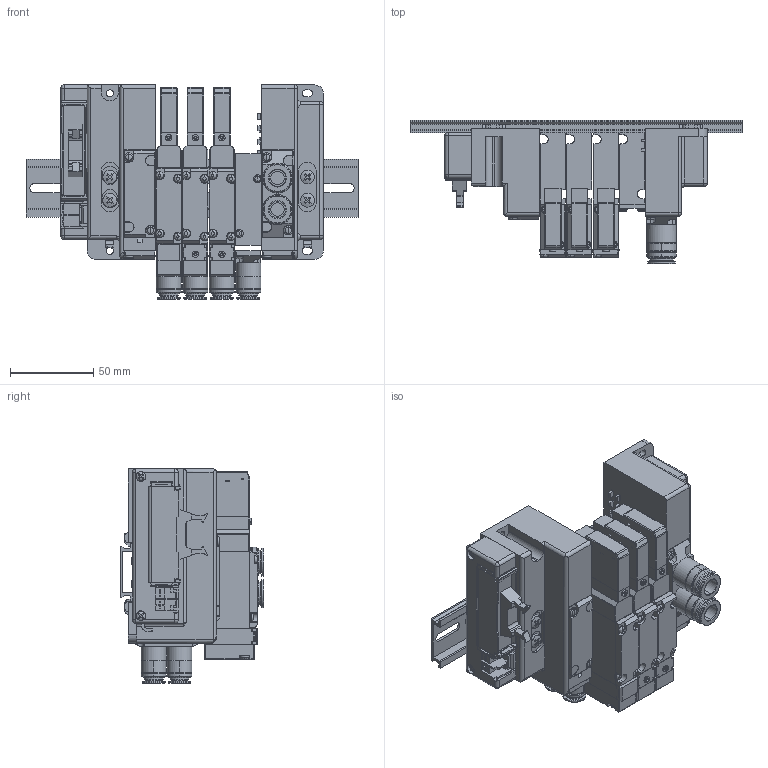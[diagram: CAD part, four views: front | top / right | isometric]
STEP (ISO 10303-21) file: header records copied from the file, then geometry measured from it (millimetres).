
FILE_DESCRIPTION( (''), '2;1');
FILE_NAME ('CVICAD02.4348.F15M4XPJ-JR-F10x-DR_21570.stp','2021-07-12T19:13:25',(''),(''),'spGate 12.6.6','','');
FILE_SCHEMA (('AUTOMOTIVE_DESIGN'));
Length unit declared in the file: millimetre
Products named in the file (22): Assembly; CVICAD02-prt1; CVICAD02-prt2; CVICAD02-prt3; CVICAD02-asm1; CVICAD02-prt6; CVICAD02-prt7; CVICAD02-prt8; CVICAD02-asm2; CVICAD02-asm3; CVICAD02-prt17; CVICAD02-prt4; CVICAD02-prt5; CVICAD02-prt9; CVICAD02-prt10; CVICAD02-prt11; CVICAD02-prt12; CVICAD02-prt13; CVICAD02-prt14; CVICAD02-prt15; CVICAD02-prt16
Assembly tree (36 placements, depth 3):
  Assembly
    (unnamed)  x4
    CVICAD02-prt1  x3
    CVICAD02-prt2
    CVICAD02-prt3  x4
    CVICAD02-asm1
      CVICAD02-prt4
      CVICAD02-prt5
    CVICAD02-prt6
    CVICAD02-prt7
    CVICAD02-prt8
    CVICAD02-asm2
      CVICAD02-prt9
      CVICAD02-prt10
      CVICAD02-prt11
      CVICAD02-prt12
      CVICAD02-prt13
      CVICAD02-prt14
      CVICAD02-prt15
    CVICAD02-asm3  x2
      CVICAD02-prt9
      CVICAD02-prt10
      CVICAD02-prt11
      CVICAD02-prt12
      CVICAD02-prt14
      CVICAD02-prt16
      CVICAD02-prt15
    CVICAD02-prt17
Bounding box: 200 x 86.6 x 129 mm (x, y, z)
Volume: 572663.5 mm3; surface area: 173670.9 mm2
Topology: 35 solids, 35 shells, 2866 faces, 7433 edges, 4732 vertices
Faces by surface type: plane 1596, cylinder 869, bspline 335, sphere 66
Entity records: 97489 total; most frequent: CARTESIAN_POINT 12933, ORIENTED_EDGE 9730, DIRECTION 9174, COLOUR_RGB 6713, PRESENTATION_STYLE_ASSIGNMENT 6713, STYLED_ITEM 6713, EDGE_CURVE 4865, DRAUGHTING_PRE_DEFINED_CURVE_FONT 4865
